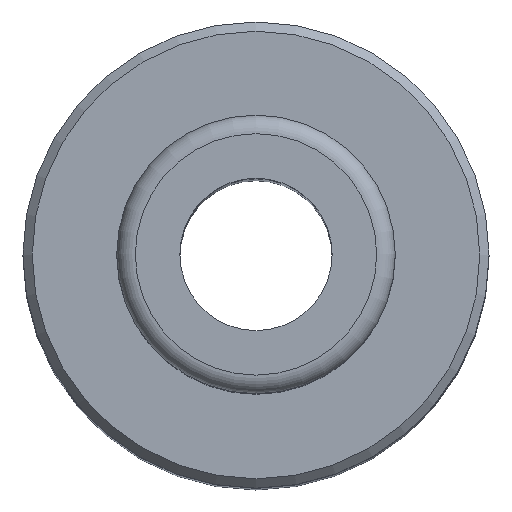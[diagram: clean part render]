
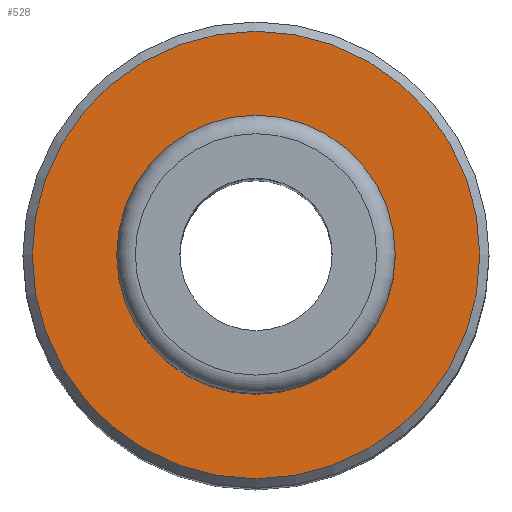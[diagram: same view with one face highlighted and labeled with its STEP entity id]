
A CAD part, top view. The second image highlights one B-rep face of the part: STEP entity #528.
In plain terms, the highlighted planar face has unit normal (0, 0, 1).
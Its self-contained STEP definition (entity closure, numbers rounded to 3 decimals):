
#439 = EDGE_CURVE('',#440,#440,#442,.T.);
#440 = VERTEX_POINT('',#441);
#441 = CARTESIAN_POINT('',(8.2,0.,117.));
#442 = CIRCLE('',#443,8.2);
#443 = AXIS2_PLACEMENT_3D('',#444,#445,#446);
#444 = CARTESIAN_POINT('',(0.,0.,117.));
#445 = DIRECTION('',(0.,0.,1.));
#446 = DIRECTION('',(1.,0.,0.));
#528 = ADVANCED_FACE('',(#529,#540),#543,.T.);
#529 = FACE_BOUND('',#530,.T.);
#530 = EDGE_LOOP('',(#531));
#531 = ORIENTED_EDGE('',*,*,#532,.T.);
#532 = EDGE_CURVE('',#533,#533,#535,.T.);
#533 = VERTEX_POINT('',#534);
#534 = CARTESIAN_POINT('',(24.1,0.,117.));
#535 = CIRCLE('',#536,24.1);
#536 = AXIS2_PLACEMENT_3D('',#537,#538,#539);
#537 = CARTESIAN_POINT('',(0.,0.,117.));
#538 = DIRECTION('',(0.,0.,1.));
#539 = DIRECTION('',(1.,0.,0.));
#540 = FACE_BOUND('',#541,.T.);
#541 = EDGE_LOOP('',(#542));
#542 = ORIENTED_EDGE('',*,*,#439,.F.);
#543 = PLANE('',#544);
#544 = AXIS2_PLACEMENT_3D('',#545,#546,#547);
#545 = CARTESIAN_POINT('',(0.,0.,117.));
#546 = DIRECTION('',(0.,0.,1.));
#547 = DIRECTION('',(1.,0.,0.));
